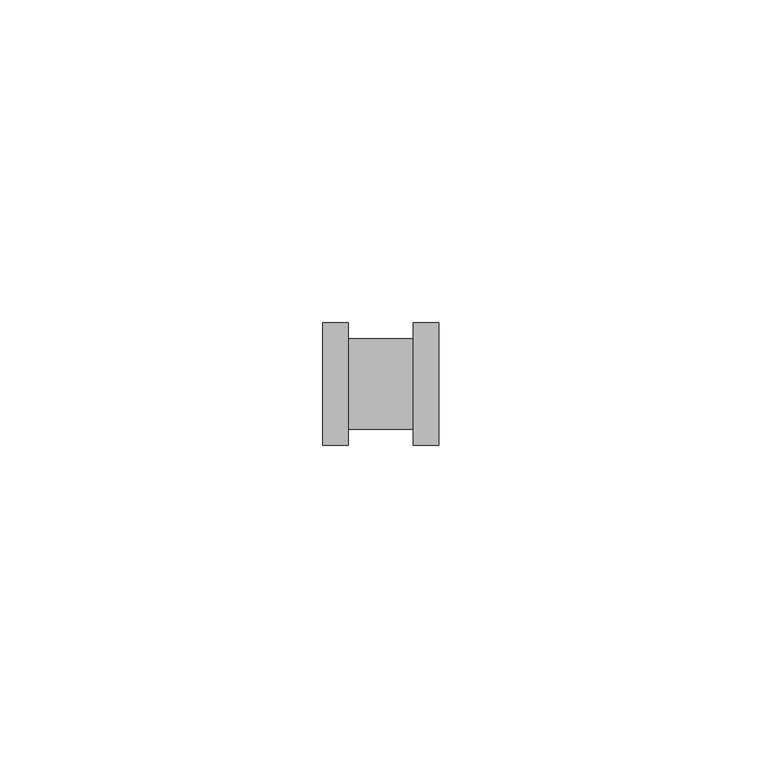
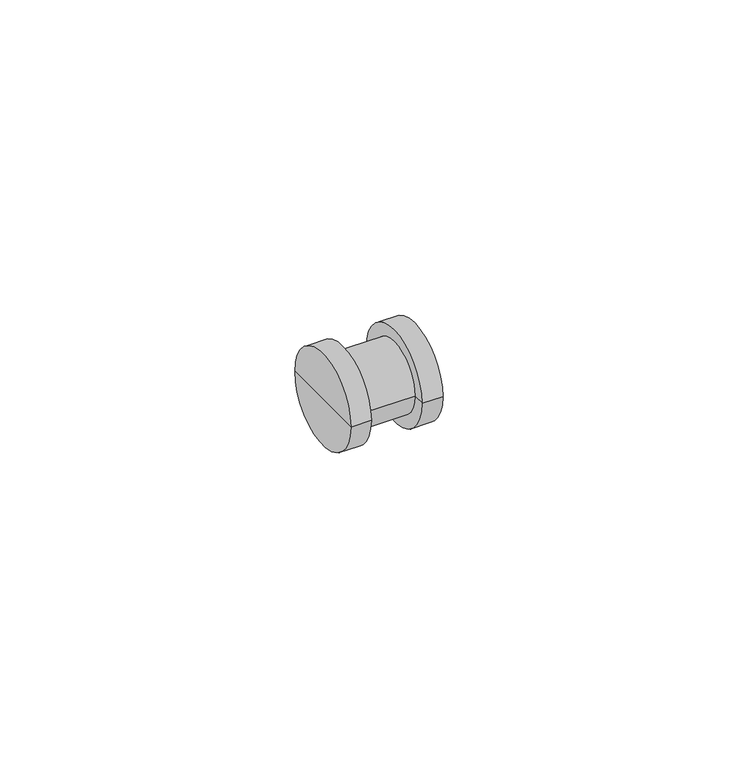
"""IFC4 building model written with IfcOpenShell, lengths in millimetres: pipe fitting geometry, KAN-therm Push łącznik PPSU : KAN-therm Push łącznik PPSU."""

from ifc_helpers import new_model, si_unit, frame, origin, place, context, project, spatial, circle_curve, source, transform, mapped, element, save
from ifc_brep_helpers import plane_surface, cylinder_surface, advanced_brep


def pipe_fitting_85a90597(model_context):
    return source(origin(), model_context, "Body", "AdvancedBrep", [
        advanced_brep(
        [(9.0, -9.5, 0.0), (9.0, 9.5, 0.0), (9.0, 0.0, 0.0), (-5.0, -7.0, 0.0), (-5.0, 7.0, 0.0), (5.0, 7.0, 0.0), (5.0, -7.0, 0.0), (-9.0, 0.0, 0.0), (-9.0, 9.5, 0.0), (-9.0, -9.5, 0.0), (5.0, -9.5, 0.0), (5.0, 9.5, 0.0), (-5.0, -9.5, 0.0), (-5.0, 9.5, 0.0)],
        [
            (0, 1, circle_curve(frame((9.0, 0.0, 0.0), z_axis=(1.0, 0.0, 0.0), x_axis=(0.0, 1.0, 0.0)), 9.5)),
            (1, 2),
            (2, 0),
            (1, 0, circle_curve(frame((9.0, 0.0, 0.0), z_axis=(1.0, 0.0, 0.0), x_axis=(0.0, 1.0, 0.0)), 9.5)),
            (3, 4, circle_curve(frame((-5.0, 0.0, 0.0), z_axis=(1.0, 0.0, 0.0), x_axis=(0.0, 1.0, 0.0)), 7.0)),
            (4, 5),
            (5, 6, circle_curve(frame((5.0, 0.0, 0.0), z_axis=(-1.0, 0.0, 0.0), x_axis=(0.0, 1.0, 0.0)), 7.0)),
            (6, 3),
            (4, 3, circle_curve(frame((-5.0, 0.0, 0.0), z_axis=(1.0, 0.0, 0.0), x_axis=(0.0, 1.0, 0.0)), 7.0)),
            (6, 5, circle_curve(frame((5.0, 0.0, 0.0), z_axis=(-1.0, 0.0, 0.0), x_axis=(0.0, 1.0, 0.0)), 7.0)),
            (7, 8),
            (8, 9, circle_curve(frame((-9.0, 0.0, 0.0), z_axis=(-1.0, 0.0, 0.0), x_axis=(0.0, 1.0, 0.0)), 9.5)),
            (9, 7),
            (9, 8, circle_curve(frame((-9.0, 0.0, 0.0), z_axis=(-1.0, 0.0, 0.0), x_axis=(0.0, 1.0, 0.0)), 9.5)),
            (10, 11, circle_curve(frame((5.0, 0.0, 0.0), z_axis=(1.0, 0.0, 0.0), x_axis=(0.0, 1.0, 0.0)), 9.5)),
            (11, 1),
            (0, 10),
            (11, 10, circle_curve(frame((5.0, 0.0, 0.0), z_axis=(1.0, 0.0, 0.0), x_axis=(0.0, 1.0, 0.0)), 9.5)),
            (5, 11),
            (10, 6),
            (12, 13, circle_curve(frame((-5.0, 0.0, 0.0), z_axis=(1.0, 0.0, 0.0), x_axis=(0.0, 1.0, 0.0)), 9.5)),
            (13, 4),
            (3, 12),
            (13, 12, circle_curve(frame((-5.0, 0.0, 0.0), z_axis=(1.0, 0.0, 0.0), x_axis=(0.0, 1.0, 0.0)), 9.5)),
            (8, 13),
            (12, 9),
        ],
        [
            plane_surface(frame((9.0, 0.0, 0.0), z_axis=(1.0, 0.0, 0.0), x_axis=(0.0, 1.0, 0.0))),
            cylinder_surface(frame((2003.0, 0.0, 0.0), z_axis=(-1.0, 0.0, 0.0), x_axis=(0.0, 1.0, 0.0)), 7.0),
            plane_surface(frame((-9.0, 0.0, 0.0), z_axis=(-1.0, 0.0, 0.0), x_axis=(0.0, 1.0, 0.0))),
            cylinder_surface(frame((2003.0, 0.0, 0.0), z_axis=(-1.0, 0.0, 0.0), x_axis=(0.0, 1.0, 0.0)), 9.5),
            plane_surface(frame((5.0, 0.0, 0.0), z_axis=(-1.0, 0.0, 0.0), x_axis=(0.0, 1.0, 0.0))),
            plane_surface(frame((-5.0, 0.0, 0.0), z_axis=(1.0, 0.0, 0.0), x_axis=(0.0, 1.0, 0.0))),
        ],
        [
            (0, [[1, 2, 3]]),
            (0, [[4, -3, -2]]),
            (1, [[5, 6, 7, 8]]),
            (1, [[9, -8, 10, -6]]),
            (2, [[11, 12, 13]]),
            (2, [[-13, 14, -11]]),
            (3, [[15, 16, -1, 17]]),
            (3, [[18, -17, -4, -16]]),
            (4, [[-7, 19, -15, 20]]),
            (4, [[-10, -20, -18, -19]]),
            (5, [[21, 22, -5, 23]]),
            (5, [[24, -23, -9, -22]]),
            (3, [[-12, 25, -21, 26]]),
            (3, [[-14, -26, -24, -25]]),
        ],
    ),
    ])


if __name__ == "__main__":
    model = new_model("IFC4")
    model_context = context("Model", 3, world=origin())
    ifc_project = project(units=[si_unit("LENGTHUNIT", "METRE", prefix="MILLI")], contexts=[model_context])
    site = spatial("IfcSite", under=ifc_project)
    building = spatial("IfcBuilding", under=site)
    placement = place(None, origin())
    pipe_fitting_shape = pipe_fitting_85a90597(model_context)
    element("IfcPipeFitting", 1, ObjectType="KAN-therm Push łącznik PPSU : KAN-therm Push łącznik PPSU", at=placement, inside=building, context=model_context, shape_type="MappedRepresentation", body=[
        mapped(pipe_fitting_shape, transform((0.0, 0.0, 0.0), x_axis=(1.0, 0.0, 0.0), y_axis=(0.0, 1.0, 0.0), z_axis=(0.0, 0.0, 1.0))),
    ])
    save(model, "model.ifc")
